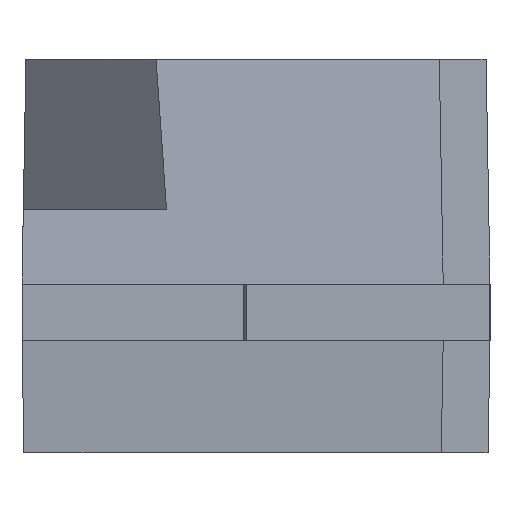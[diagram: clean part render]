
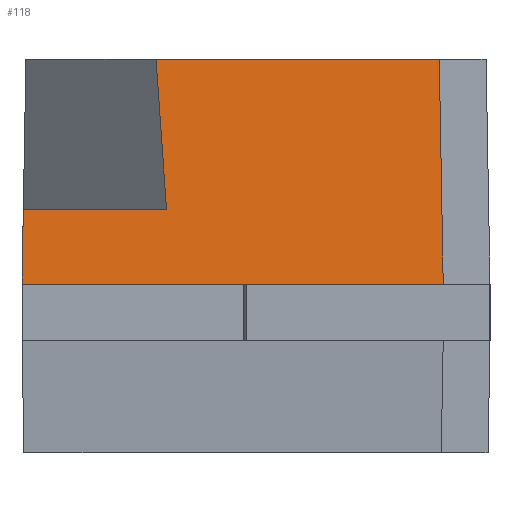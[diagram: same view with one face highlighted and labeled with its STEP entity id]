
A CAD part, front view. The second image highlights one B-rep face of the part: STEP entity #118.
In plain terms, the highlighted planar face has unit normal (0, -0.998, 0.07).
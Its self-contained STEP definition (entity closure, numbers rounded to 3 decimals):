
#118=ADVANCED_FACE('',(#229),#230,.T.);
#229=FACE_OUTER_BOUND('',#364,.T.);
#230=PLANE('',#365);
#364=EDGE_LOOP('',(#739,#740,#741,#742,#743,#744,#745));
#365=AXIS2_PLACEMENT_3D('',#746,#747,#748);
#739=ORIENTED_EDGE('',*,*,#1047,.T.);
#740=ORIENTED_EDGE('',*,*,#1044,.T.);
#741=ORIENTED_EDGE('',*,*,#1050,.F.);
#742=ORIENTED_EDGE('',*,*,#998,.T.);
#743=ORIENTED_EDGE('',*,*,#962,.T.);
#744=ORIENTED_EDGE('',*,*,#1051,.T.);
#745=ORIENTED_EDGE('',*,*,#1052,.T.);
#746=CARTESIAN_POINT('',(0.,-1.6,-0.6));
#747=DIRECTION('',(0.,-0.998,0.07));
#748=DIRECTION('',(-1.0,0.,0.));
#962=EDGE_CURVE('',#1143,#1144,#1145,.T.);
#998=EDGE_CURVE('',#1203,#1143,#1204,.T.);
#1044=EDGE_CURVE('',#1275,#1276,#1277,.T.);
#1047=EDGE_CURVE('',#1281,#1275,#1282,.F.);
#1050=EDGE_CURVE('',#1203,#1276,#1286,.F.);
#1051=EDGE_CURVE('',#1144,#1287,#1288,.T.);
#1052=EDGE_CURVE('',#1287,#1281,#1289,.T.);
#1143=VERTEX_POINT('',#1414);
#1144=VERTEX_POINT('',#1415);
#1145=LINE('',#1416,#1417);
#1203=VERTEX_POINT('',#1506);
#1204=LINE('',#1507,#1508);
#1275=VERTEX_POINT('',#1621);
#1276=VERTEX_POINT('',#1622);
#1277=LINE('',#1623,#1624);
#1281=VERTEX_POINT('',#1630);
#1282=LINE('',#1631,#1632);
#1286=LINE('',#1638,#1639);
#1287=VERTEX_POINT('',#1640);
#1288=LINE('',#1641,#1642);
#1289=LINE('',#1643,#1644);
#1414=CARTESIAN_POINT('',(-0.007,-1.6,-0.6));
#1415=CARTESIAN_POINT('',(0.525,-1.6,-0.6));
#1416=CARTESIAN_POINT('',(-0.007,-1.6,-0.6));
#1417=VECTOR('',#1800,0.532);
#1506=CARTESIAN_POINT('',(-0.6,-1.6,-0.6));
#1507=CARTESIAN_POINT('',(-0.6,-1.6,-0.6));
#1508=VECTOR('',#1844,0.593);
#1621=CARTESIAN_POINT('',(-0.214,-1.586,-0.4));
#1622=CARTESIAN_POINT('',(-0.597,-1.586,-0.4));
#1623=CARTESIAN_POINT('',(-0.214,-1.586,-0.4));
#1624=VECTOR('',#1896,0.383);
#1630=CARTESIAN_POINT('',(-0.242,-1.558,0.0));
#1631=CARTESIAN_POINT('',(-0.214,-1.586,-0.4));
#1632=VECTOR('',#1899,0.402);
#1638=CARTESIAN_POINT('',(-0.597,-1.586,-0.4));
#1639=VECTOR('',#1902,0.201);
#1640=CARTESIAN_POINT('',(0.515,-1.558,0.0));
#1641=CARTESIAN_POINT('',(0.525,-1.6,-0.6));
#1642=VECTOR('',#1903,0.602);
#1643=CARTESIAN_POINT('',(0.515,-1.558,0.0));
#1644=VECTOR('',#1904,0.756);
#1800=DIRECTION('',(1.0,0.,0.0));
#1844=DIRECTION('',(1.0,0.,0.0));
#1896=DIRECTION('',(-1.0,0.,0.0));
#1899=DIRECTION('',(-0.07,0.07,0.995));
#1902=DIRECTION('',(-0.017,-0.07,-0.997));
#1903=DIRECTION('',(-0.017,0.07,0.997));
#1904=DIRECTION('',(-1.0,0.,0.0));
